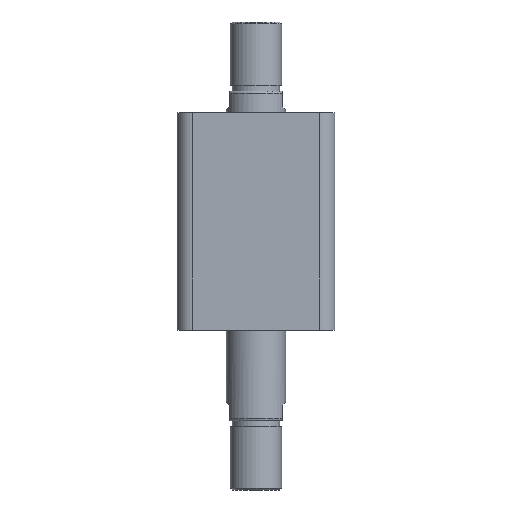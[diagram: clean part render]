
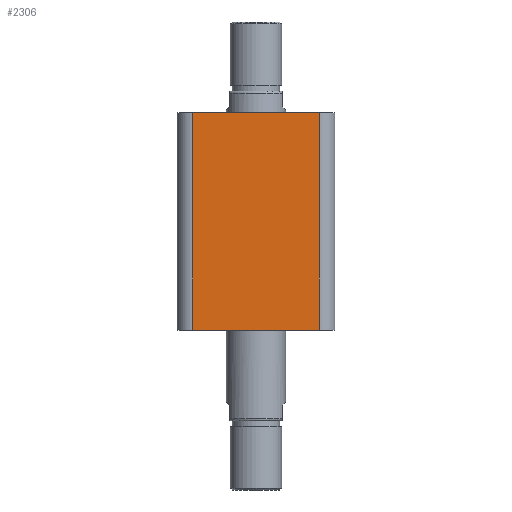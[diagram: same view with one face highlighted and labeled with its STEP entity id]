
A CAD part, front view. The second image highlights one B-rep face of the part: STEP entity #2306.
In plain terms, the highlighted planar face has unit normal (0, -1, 0).
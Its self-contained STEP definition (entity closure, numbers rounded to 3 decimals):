
#43 = FACE_OUTER_BOUND ( 'NONE', #1781, .T. ) ;
#664 = VERTEX_POINT ( 'NONE', #1045 ) ;
#781 = LINE ( 'NONE', #1113, #784 ) ;
#783 = LINE ( 'NONE', #1115, #786 ) ;
#784 = VECTOR ( 'NONE', #1114, 1000. ) ;
#785 = LINE ( 'NONE', #1118, #789 ) ;
#786 = VECTOR ( 'NONE', #1117, 1000. ) ;
#788 = LINE ( 'NONE', #1122, #791 ) ;
#789 = VECTOR ( 'NONE', #1116, 1000. ) ;
#791 = VECTOR ( 'NONE', #1123, 1000. ) ;
#956 = EDGE_CURVE ( 'NONE', #664, #3217, #781, .T. ) ;
#957 = EDGE_CURVE ( 'NONE', #664, #3218, #783, .T. ) ;
#959 = EDGE_CURVE ( 'NONE', #3218, #3219, #785, .T. ) ;
#960 = EDGE_CURVE ( 'NONE', #3219, #3217, #788, .T. ) ;
#1045 = CARTESIAN_POINT ( 'NONE',  ( -32., -40., 110. ) ) ;
#1113 = CARTESIAN_POINT ( 'NONE',  ( -40., -40., 110. ) ) ;
#1114 = DIRECTION ( 'NONE',  ( 1., 0., 0. ) ) ;
#1115 = CARTESIAN_POINT ( 'NONE',  ( -32., -40., 110. ) ) ;
#1116 = DIRECTION ( 'NONE',  ( 1., 0., 0. ) ) ;
#1117 = DIRECTION ( 'NONE',  ( 0., 0., -1. ) ) ;
#1118 = CARTESIAN_POINT ( 'NONE',  ( -40., -40., 0. ) ) ;
#1122 = CARTESIAN_POINT ( 'NONE',  ( 32., -40., 110. ) ) ;
#1123 = DIRECTION ( 'NONE',  ( 0., 0., 1. ) ) ;
#1603 = CARTESIAN_POINT ( 'NONE',  ( -40., -40., 110. ) ) ;
#1610 = PLANE ( 'NONE',  #2922 ) ;
#1612 = DIRECTION ( 'NONE',  ( 0., 1., 0. ) ) ;
#1613 = DIRECTION ( 'NONE',  ( 0., 0., 1. ) ) ;
#1781 = EDGE_LOOP ( 'NONE', ( #2413, #2414, #2415, #2416 ) ) ;
#2199 = CARTESIAN_POINT ( 'NONE',  ( 32., -40., 110. ) ) ;
#2200 = CARTESIAN_POINT ( 'NONE',  ( -32., -40., 0. ) ) ;
#2201 = CARTESIAN_POINT ( 'NONE',  ( 32., -40., 0. ) ) ;
#2306 = ADVANCED_FACE ( 'NONE', ( #43 ), #1610, .F. ) ;
#2413 = ORIENTED_EDGE ( 'NONE', *, *, #956, .F. ) ;
#2414 = ORIENTED_EDGE ( 'NONE', *, *, #957, .T. ) ;
#2415 = ORIENTED_EDGE ( 'NONE', *, *, #959, .T. ) ;
#2416 = ORIENTED_EDGE ( 'NONE', *, *, #960, .T. ) ;
#2922 = AXIS2_PLACEMENT_3D ( 'NONE', #1603, #1612, #1613 ) ;
#3217 = VERTEX_POINT ( 'NONE', #2199 ) ;
#3218 = VERTEX_POINT ( 'NONE', #2200 ) ;
#3219 = VERTEX_POINT ( 'NONE', #2201 ) ;
